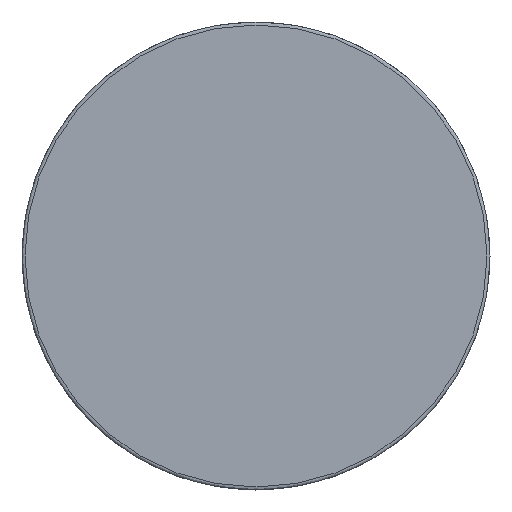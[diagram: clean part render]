
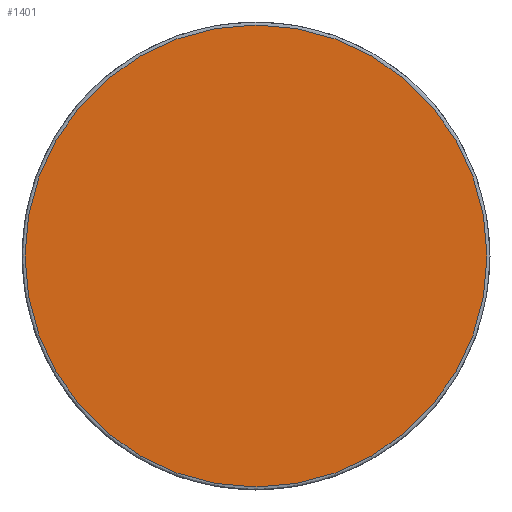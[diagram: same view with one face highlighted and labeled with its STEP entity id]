
A CAD part, left-side view. The second image highlights one B-rep face of the part: STEP entity #1401.
In plain terms, the highlighted planar face has unit normal (-1, 0, 0).
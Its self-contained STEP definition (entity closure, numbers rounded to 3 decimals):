
#1376=CARTESIAN_POINT('',(-449.277,-413.709,-80.841));
#1377=DIRECTION('',(-1.0,0.0,0.0));
#1378=DIRECTION('',(0.0,-1.0,0.0));
#1379=AXIS2_PLACEMENT_3D('',#1376,#1377,#1378);
#1380=PLANE('',#1379);
#1381=CARTESIAN_POINT('',(-449.277,-549.309,-6.441));
#1382=VERTEX_POINT('',#1381);
#1383=CARTESIAN_POINT('',(-449.277,-426.909,-6.441));
#1384=VERTEX_POINT('',#1383);
#1385=CARTESIAN_POINT('',(-449.277,-488.109,-6.441));
#1386=DIRECTION('',(-1.0,0.0,0.0));
#1387=DIRECTION('',(0.0,-1.0,0.0));
#1388=AXIS2_PLACEMENT_3D('',#1385,#1386,#1387);
#1389=CIRCLE('',#1388,61.2);
#1390=EDGE_CURVE('',#1382,#1384,#1389,.T.);
#1391=ORIENTED_EDGE('',*,*,#1390,.T.);
#1392=CARTESIAN_POINT('',(-449.277,-488.109,-6.441));
#1393=DIRECTION('',(-1.0,0.0,0.0));
#1394=DIRECTION('',(0.0,-1.0,0.0));
#1395=AXIS2_PLACEMENT_3D('',#1392,#1393,#1394);
#1396=CIRCLE('',#1395,61.2);
#1397=EDGE_CURVE('',#1384,#1382,#1396,.T.);
#1398=ORIENTED_EDGE('',*,*,#1397,.T.);
#1399=EDGE_LOOP('',(#1391,#1398));
#1400=FACE_OUTER_BOUND('',#1399,.T.);
#1401=ADVANCED_FACE('',(#1400),#1380,.T.);
